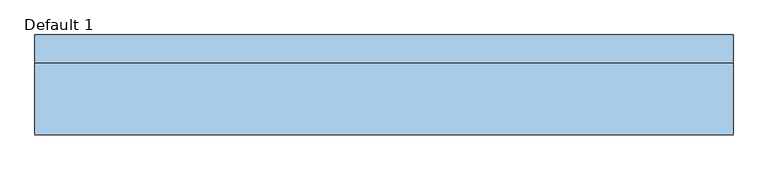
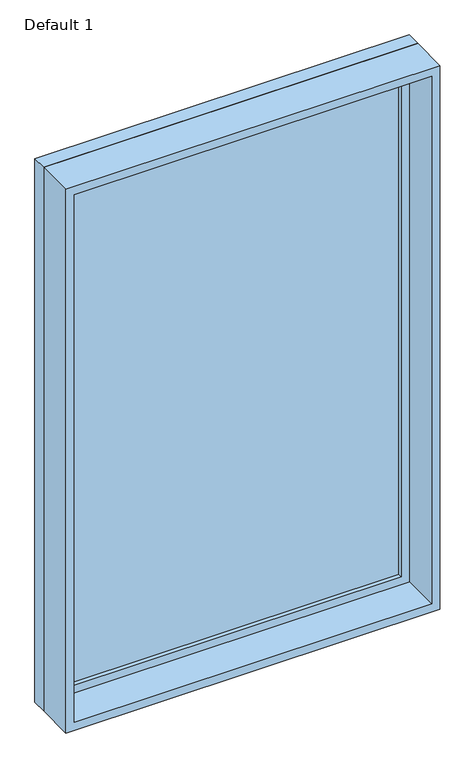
"""IFC4 building model written with IfcOpenShell, lengths in millimetres: window geometry, Planitar-Fixed : Default 1."""

from ifc_helpers import new_model, si_unit, frame, origin, place, context, project, spatial, polyline, outline, extrude, source, transform, mapped, element, save


def default_1_1f2e066e(model_context):
    return source(origin(), model_context, "Body", "SweptSolid", [
        extrude(outline(polyline([(3079.8, -692.2), (933.4, -692.2), (933.4, 692.2), (3079.8, 692.2), (3079.8, -692.2)]), holes=[polyline([(3035.8, -648.2), (3035.8, 648.2), (977.4, 648.2), (977.4, -648.2), (3035.8, -648.2)])]), frame((0.0, 57.9, 0.0), z_axis=(0.0, 1.0, 0.0), x_axis=(0.0, 0.0, 1.0)), (0.0, 0.0, 1.0), 44.0),
        extrude(outline(polyline([(3098.8, -711.2), (914.4, -711.2), (914.4, 711.2), (3098.8, 711.2), (3098.8, -711.2)]), holes=[polyline([(3079.8, -692.2), (3079.8, 692.2), (933.4, 692.2), (933.4, -692.2), (3079.8, -692.2)])]), frame((0.0, 57.9, 0.0), z_axis=(0.0, 1.0, 0.0), x_axis=(0.0, 0.0, 1.0)), (0.0, 0.0, 1.0), 56.7),
        extrude(outline(polyline([(3098.8, -711.2), (914.4, -711.2), (914.4, 711.2), (3098.8, 711.2), (3098.8, -711.2)]), holes=[polyline([(3066.8, -679.2), (3066.8, 679.2), (946.4, 679.2), (946.4, -679.2), (3066.8, -679.2)])]), frame((0.0, -88.6, 0.0), z_axis=(0.0, 1.0, 0.0), x_axis=(0.0, 0.0, 1.0)), (0.0, 0.0, 1.0), 146.5),
        extrude(outline(polyline([(-648.2, 85.9), (648.2, 85.9), (648.2, 73.9), (-648.2, 73.9), (-648.2, 85.9)])), frame((0.0, 0.0, 977.4), z_axis=(0.0, 0.0, 1.0), x_axis=(1.0, 0.0, 0.0)), (0.0, 0.0, 1.0), 2058.4),
    ])


if __name__ == "__main__":
    model = new_model("IFC4")
    model_context = context("Model", 3, world=origin())
    ifc_project = project(units=[si_unit("LENGTHUNIT", "METRE", prefix="MILLI")], contexts=[model_context])
    site = spatial("IfcSite", under=ifc_project)
    building = spatial("IfcBuilding", under=site)
    placement = place(None, origin())
    default_1_shape = default_1_1f2e066e(model_context)
    element("IfcWindow", 1, ObjectType="Planitar-Fixed : Default 1", at=placement, inside=building, context=model_context, shape_type="MappedRepresentation", body=[
        mapped(default_1_shape, transform((0.0, 0.0, 0.0), x_axis=(1.0, 0.0, 0.0), y_axis=(0.0, 1.0, 0.0), z_axis=(0.0, 0.0, 1.0))),
    ])
    save(model, "model.ifc")
